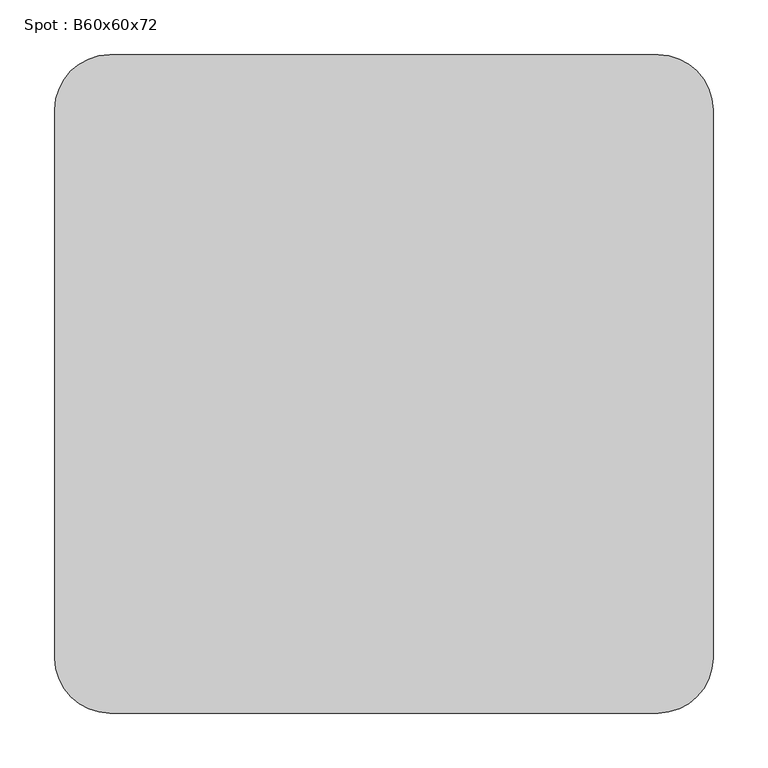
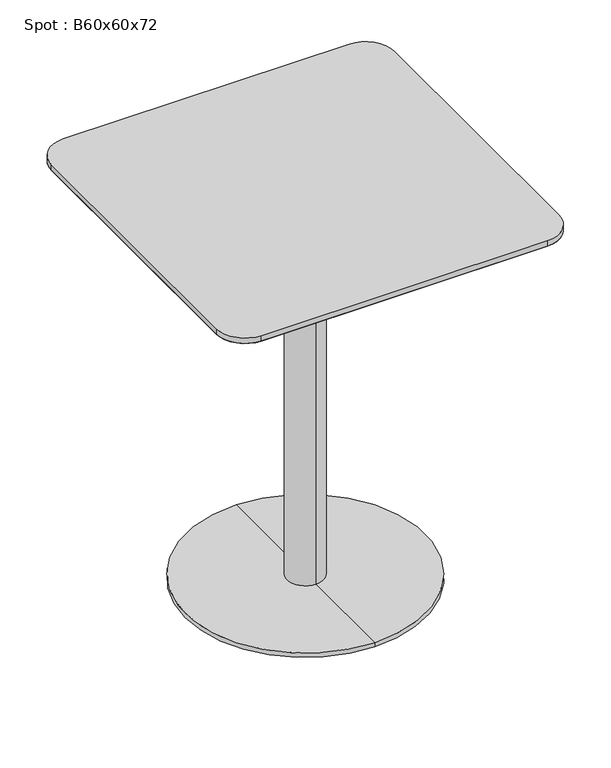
"""IFC4 building model written with IfcOpenShell, lengths in millimetres: furniture geometry, Spot : B60x60x72."""

from ifc_helpers import new_model, si_unit, point, frame, frame_2d, origin, place, context, project, spatial, polyline, circle_curve, trimmed, segment, composite_curve, outline, extrude, source, transform, mapped, element, save
from ifc_brep_helpers import plane_surface, cylinder_surface, revolved_surface, advanced_brep


def spot_b60x60x72_e15ce815(model_context):
    return source(origin(), model_context, "Body", "SolidModel", [
        advanced_brep(
        [(-250.0, -250.0, 698.0), (-250.0, 250.0, 698.0), (250.0, 250.0, 698.0), (250.0, -250.0, 698.0), (-300.0, -250.0, 710.0), (-250.0, -300.0, 710.0), (250.0, -300.0, 710.0), (300.0, -250.0, 710.0), (300.0, 250.0, 710.0), (250.0, 300.0, 710.0), (-250.0, 300.0, 710.0), (-300.0, 250.0, 710.0)],
        [
            (0, 1),
            (1, 2),
            (2, 3),
            (3, 0),
            (4, 5, circle_curve(frame((-250.0, -250.0, 710.0), z_axis=(0.0, 0.0, 1.0), x_axis=(0.0, -1.0, 0.0)), 50.0)),
            (5, 6),
            (6, 7, circle_curve(frame((250.0, -250.0, 710.0), z_axis=(0.0, 0.0, 1.0), x_axis=(1.0, 0.0, 0.0)), 50.0)),
            (7, 8),
            (8, 9, circle_curve(frame((250.0, 250.0, 710.0), z_axis=(0.0, 0.0, 1.0), x_axis=(0.0, 1.0, 0.0)), 50.0)),
            (9, 10),
            (10, 11, circle_curve(frame((-250.0, 250.0, 710.0), z_axis=(0.0, 0.0, 1.0), x_axis=(-1.0, 0.0, 0.0)), 50.0)),
            (11, 4),
            (4, 0),
            (0, 5),
            (3, 6),
            (3, 7),
            (2, 8),
            (2, 9),
            (1, 10),
            (1, 11),
        ],
        [
            plane_surface(frame((0.0, 0.0, 698.0), z_axis=(0.0, 0.0, -1.0), x_axis=(-1.0, 0.0, 0.0))),
            plane_surface(frame((0.0, 0.0, 710.0), z_axis=(0.0, 0.0, 1.0), x_axis=(-1.0, 0.0, 0.0))),
            revolved_surface(polyline([(-250.0, -250.0, 698.0), (-250.0, -300.0, 710.0)]), (-250.0, -250.0, 698.0), (0.0, 0.0, 1.0)),
            plane_surface(frame((0.0, -300.0, 710.0), z_axis=(0.0, -0.23337295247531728, -0.9723873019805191), x_axis=(-1.0, 0.0, 0.0))),
            revolved_surface(polyline([(250.0, -250.0, 698.0), (300.0, -250.0, 710.0)]), (250.0, -250.0, 698.0), (0.0, 0.0, 1.0)),
            plane_surface(frame((300.0, 0.0, 710.0), z_axis=(0.23337295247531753, 0.0, -0.9723873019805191), x_axis=(0.0, -1.0, 0.0))),
            revolved_surface(polyline([(250.0, 250.0, 698.0), (250.0, 300.0, 710.0)]), (250.0, 250.0, 698.0), (0.0, 0.0, 1.0)),
            plane_surface(frame((0.0, 300.0, 710.0), z_axis=(0.0, 0.2333729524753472, -0.9723873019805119), x_axis=(1.0, 0.0, 0.0))),
            revolved_surface(polyline([(-250.0, 250.0, 698.0), (-300.0, 250.0, 710.0)]), (-250.0, 250.0, 698.0), (0.0, 0.0, 1.0)),
            plane_surface(frame((-300.0, 0.0, 710.0), z_axis=(-0.233372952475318, 0.0, -0.972387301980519), x_axis=(0.0, 1.0, 0.0))),
        ],
        [
            (0, [[1, 2, 3, 4]]),
            (1, [[5, 6, 7, 8, 9, 10, 11, 12]]),
            (2, [[-5, 13, 14]]),
            (3, [[-6, -14, -4, 15]]),
            (4, [[-7, -15, 16]]),
            (5, [[-8, -16, -3, 17]]),
            (6, [[-9, -17, 18]]),
            (7, [[-10, -18, -2, 19]]),
            (8, [[-11, -19, 20]]),
            (9, [[-12, -20, -1, -13]]),
        ],
    ),
        extrude(outline(composite_curve([segment(trimmed(circle_curve(frame_2d((250.0, 250.0)), 50.0), [point((250.0, 300.0))], [point((300.0, 250.0))], False, "CARTESIAN"), True, "CONTINUOUS"), segment(polyline([(300.0, 250.0), (300.0, -250.0)]), True, "CONTINUOUS"), segment(trimmed(circle_curve(frame_2d((250.0, -250.0)), 50.0), [point((300.0, -250.0))], [point((250.0, -300.0))], False, "CARTESIAN"), True, "CONTINUOUS"), segment(polyline([(250.0, -300.0), (-250.0, -300.0)]), True, "CONTINUOUS"), segment(trimmed(circle_curve(frame_2d((-250.0, -250.0)), 50.0), [point((-250.0, -300.0))], [point((-300.0, -250.0))], False, "CARTESIAN"), True, "CONTINUOUS"), segment(polyline([(-300.0, -250.0), (-300.0, 250.0)]), True, "CONTINUOUS"), segment(trimmed(circle_curve(frame_2d((-250.0, 250.0)), 50.0), [point((-300.0, 250.0))], [point((-250.0, 300.0))], False, "CARTESIAN"), True, "CONTINUOUS"), segment(polyline([(-250.0, 300.0), (250.0, 300.0)]), True, "CONTINUOUS")], self_intersect=False)), frame((0.0, 0.0, 710.0), z_axis=(0.0, 0.0, 1.0), x_axis=(1.0, 0.0, 0.0)), (0.0, 0.0, 1.0), 10.0),
        advanced_brep(
        [(0.0, 32.0, 10.0), (0.0, -32.0, 10.0), (0.0, -32.0, 667.406916), (0.0, 32.0, 667.406916), (0.0, 210.0, 10.0), (0.0, -210.0, 10.0), (0.0, 210.0, 2.0), (0.0, -210.0, 2.0), (0.0, 0.0, 2.0), (0.0, 150.0, 698.0), (0.0, -150.0, 698.0), (0.0, 0.0, 698.0), (0.0, 150.0, 686.7213673), (0.0, -150.0, 686.7213673)],
        [
            (0, 1, circle_curve(frame((0.0, 0.0, 10.0), z_axis=(0.0, 0.0, 1.0), x_axis=(0.0, -1.0, 0.0)), 32.0)),
            (1, 2),
            (2, 3, circle_curve(frame((0.0, 0.0, 667.406916), z_axis=(0.0, 0.0, -1.0), x_axis=(0.0, -1.0, 0.0)), 32.0)),
            (3, 0),
            (1, 0, circle_curve(frame((0.0, 0.0, 10.0), z_axis=(0.0, 0.0, 1.0), x_axis=(0.0, -1.0, 0.0)), 32.0)),
            (3, 2, circle_curve(frame((0.0, 0.0, 667.406916), z_axis=(0.0, 0.0, -1.0), x_axis=(0.0, -1.0, 0.0)), 32.0)),
            (4, 5, circle_curve(frame((0.0, 0.0, 10.0), z_axis=(0.0, 0.0, 1.0), x_axis=(0.0, -1.0, 0.0)), 210.0)),
            (5, 1),
            (0, 4),
            (5, 4, circle_curve(frame((0.0, 0.0, 10.0), z_axis=(0.0, 0.0, 1.0), x_axis=(0.0, -1.0, 0.0)), 210.0)),
            (6, 7, circle_curve(frame((0.0, 0.0, 2.0), z_axis=(0.0, 0.0, 1.0), x_axis=(0.0, -1.0, 0.0)), 210.0)),
            (7, 5),
            (4, 6),
            (7, 6, circle_curve(frame((0.0, 0.0, 2.0), z_axis=(0.0, 0.0, 1.0), x_axis=(0.0, -1.0, 0.0)), 210.0)),
            (8, 7),
            (6, 8),
            (9, 10, circle_curve(frame((0.0, 0.0, 698.0), z_axis=(0.0, 0.0, 1.0), x_axis=(0.0, -1.0, 0.0)), 150.0)),
            (10, 11),
            (11, 9),
            (10, 9, circle_curve(frame((0.0, 0.0, 698.0), z_axis=(0.0, 0.0, 1.0), x_axis=(0.0, -1.0, 0.0)), 150.0)),
            (12, 13, circle_curve(frame((0.0, 0.0, 686.7213673), z_axis=(0.0, 0.0, 1.0), x_axis=(0.0, -1.0, 0.0)), 150.0)),
            (13, 10),
            (9, 12),
            (13, 12, circle_curve(frame((0.0, 0.0, 686.7213673), z_axis=(0.0, 0.0, 1.0), x_axis=(0.0, -1.0, 0.0)), 150.0)),
            (2, 13),
            (12, 3),
        ],
        [
            cylinder_surface(frame((0.0, 0.0, 1060.0), z_axis=(0.0, 0.0, -1.0), x_axis=(0.0, -1.0, 0.0)), 32.0),
            plane_surface(frame((0.0, 0.0, 10.0), z_axis=(0.0, 0.0, 1.0), x_axis=(0.0, -1.0, 0.0))),
            cylinder_surface(frame((0.0, 0.0, 1060.0), z_axis=(0.0, 0.0, -1.0), x_axis=(0.0, -1.0, 0.0)), 210.0),
            plane_surface(frame((0.0, 0.0, 2.0), z_axis=(0.0, 0.0, -1.0), x_axis=(0.0, -1.0, 0.0))),
            plane_surface(frame((0.0, 0.0, 698.0), z_axis=(0.0, 0.0, 1.0), x_axis=(0.0, -1.0, 0.0))),
            cylinder_surface(frame((0.0, 0.0, 1060.0), z_axis=(0.0, 0.0, -1.0), x_axis=(0.0, -1.0, 0.0)), 150.0),
            revolved_surface(polyline([(0.0, -150.0, 686.7213673), (0.0, -32.0, 667.406916)]), (0.0, 0.0, 1060.0), (0.0, 0.0, -1.0)),
        ],
        [
            (0, [[1, 2, 3, 4]]),
            (0, [[5, -4, 6, -2]]),
            (1, [[7, 8, -1, 9]]),
            (1, [[10, -9, -5, -8]]),
            (2, [[11, 12, -7, 13]]),
            (2, [[14, -13, -10, -12]]),
            (3, [[15, -11, 16]]),
            (3, [[-16, -14, -15]]),
            (4, [[17, 18, 19]]),
            (4, [[20, -19, -18]]),
            (5, [[21, 22, -17, 23]]),
            (5, [[24, -23, -20, -22]]),
            (6, [[-3, 25, -21, 26]]),
            (6, [[-6, -26, -24, -25]]),
        ],
    ),
    ])


if __name__ == "__main__":
    model = new_model("IFC4")
    model_context = context("Model", 3, world=origin())
    ifc_project = project(units=[si_unit("LENGTHUNIT", "METRE", prefix="MILLI")], contexts=[model_context])
    site = spatial("IfcSite", under=ifc_project)
    building = spatial("IfcBuilding", under=site)
    placement = place(None, origin())
    spot_b60x60x72_shape = spot_b60x60x72_e15ce815(model_context)
    element("IfcFurniture", 1, ObjectType="Spot : B60x60x72", at=placement, inside=building, context=model_context, shape_type="MappedRepresentation", body=[
        mapped(spot_b60x60x72_shape, transform((0.0, 0.0, 0.0), x_axis=(1.0, 0.0, 0.0), y_axis=(0.0, 1.0, 0.0), z_axis=(0.0, 0.0, 1.0))),
    ])
    save(model, "model.ifc")
